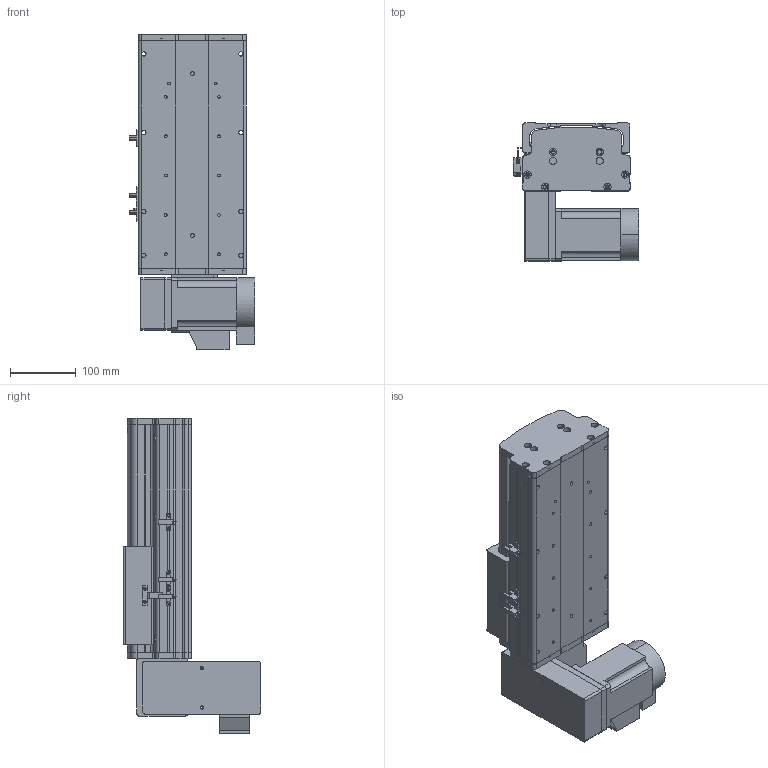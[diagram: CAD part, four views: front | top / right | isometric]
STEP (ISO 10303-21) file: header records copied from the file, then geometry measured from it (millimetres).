
FILE_DESCRIPTION (( 'STEP AP214' ), '1' );
FILE_NAME ('KSD165B-S100-MLD-CM.STEP', '2017-10-16T06:42:23', ( '微软用户' ), ( '微软中国' ), 'SwSTEP 2.0', 'SolidWorks 2014', '' );
FILE_SCHEMA (( 'AUTOMOTIVE_DESIGN' ));
Length unit declared in the file: millimetre
Products named in the file (17): KSD165模组-同步带防尘盖1-100行程-最新版; KSD165模组同步带底板-100行程-最新; 拸秶雄ん750W侜督萇儂; U倰嫖萇假蚾璃; U倰嫖萇EEㄜSX672; 覜茼え68遵圉猾敕; KSD165模组-同步带-防撞垫2; KSD165模组同步带-防撞垫1; KSD165耀郪-ヶ傷啣1-肮祭湍; KSD165模组-后端板1-同步带; KSD165模组-同步带滑动座-最新版; KSD165B-S100-MLD-CM; 130宽模组马达安装板连板上下折丝杆同步带; 130宽模组保护罩上下左右折-同步带; HTPA26S5M250-A-H8 750W萇儂蚚; HTPA26S5M250-A-H8 400W萇儂蚚 ; 165宽马达安装板同步带左-改
Assembly tree (20 placements, depth 2):
  KSD165B-S100-MLD-CM
    KSD165模组-同步带滑动座-最新版
    KSD165模组-后端板1-同步带
    KSD165耀郪-ヶ傷啣1-肮祭湍
    KSD165模组同步带-防撞垫1
    KSD165模组-同步带-防撞垫2
    覜茼え68遵圉猾敕
    U倰嫖萇EEㄜSX672  x3
    U倰嫖萇假蚾璃  x3
    拸秶雄ん750W侜督萇儂
    KSD165模组同步带底板-100行程-最新
    KSD165模组-同步带防尘盖1-100行程-最新版
    165宽马达安装板同步带左-改
    HTPA26S5M250-A-H8 400W萇儂蚚 
    HTPA26S5M250-A-H8 750W萇儂蚚
    130宽模组保护罩上下左右折-同步带
    130宽模组马达安装板连板上下折丝杆同步带
Bounding box: 191.2 x 210 x 481 mm (x, y, z)
Volume: 3851806.7 mm3; surface area: 886881 mm2
Topology: 21 solids, 22 shells, 1849 faces, 5196 edges, 3388 vertices
Faces by surface type: cylinder 1161, plane 576, cone 112
Entity records: 58872 total; most frequent: CARTESIAN_POINT 12078, DIRECTION 9772, ORIENTED_EDGE 9052, EDGE_CURVE 4526, AXIS2_PLACEMENT_3D 3816, VERTEX_POINT 2980, CIRCLE 2164, VECTOR 2140
